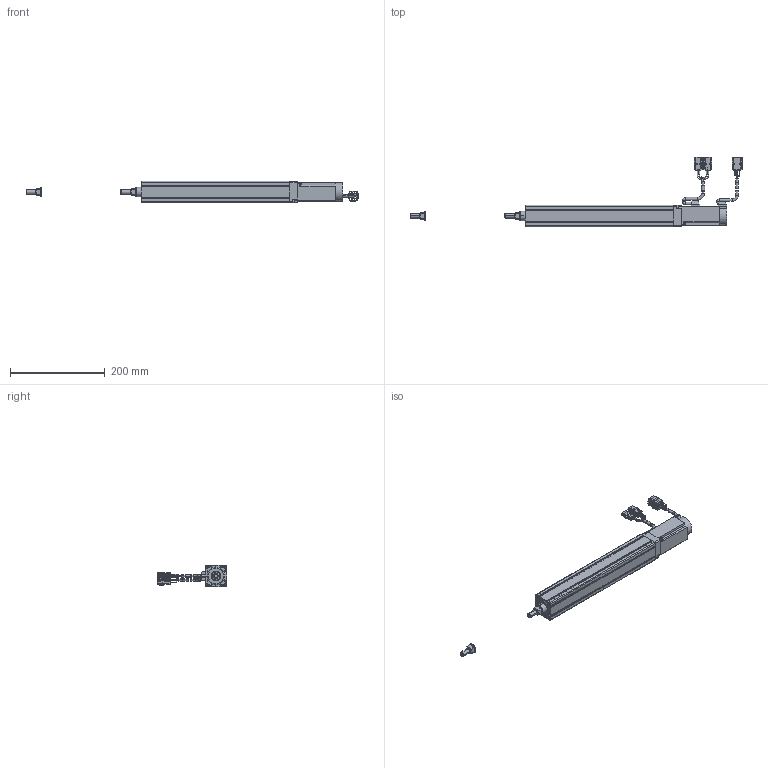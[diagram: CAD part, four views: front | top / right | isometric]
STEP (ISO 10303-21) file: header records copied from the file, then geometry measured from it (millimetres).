
FILE_DESCRIPTION((''),'2;1');
FILE_NAME('BET4D-ST-C_B-20_IGS_PRT','2017-06-18T',(' '),(''),'PRO/ENGINEER BY PARAMETRIC TECHNOLOGY CORPORATION, 2015030','PRO/ENGINEER BY PARAMETRIC TECHNOLOGY CORPORATION, 2015030','');
FILE_SCHEMA(('CONFIG_CONTROL_DESIGN'));
Length unit declared in the file: millimetre
Products named in the file (1): BET4D-ST-C_B-20_IGS_PRT
Bounding box: 699 x 145.7 x 45 mm (x, y, z)
Volume: 627405 mm3; surface area: 200244.2 mm2
Topology: 6 solids, 30 shells, 940 faces, 2473 edges, 1598 vertices
Faces by surface type: plane 616, cylinder 234, torus 68, cone 18, sphere 4
Entity records: 29176 total; most frequent: CARTESIAN_POINT 5435, DIRECTION 4913, ORIENTED_EDGE 4878, EDGE_CURVE 2467, VECTOR 1781, LINE 1781, VERTEX_POINT 1598, AXIS2_PLACEMENT_3D 1566
